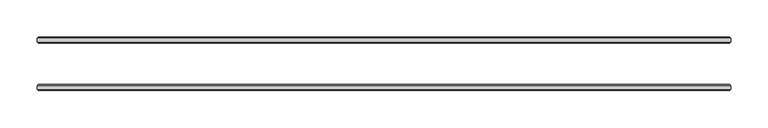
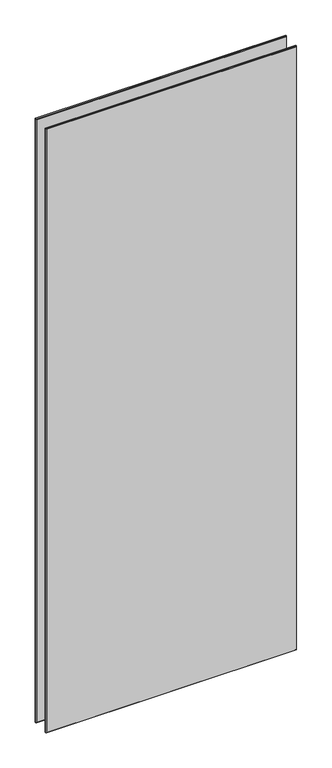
"""IFC4 building model written with IfcOpenShell, lengths in millimetres: plate geometry, 3-AMG-2-Панель двойной витраж 8, 10 : Смещение 32 Толщина 8mm."""

from ifc_helpers import new_model, si_unit, origin, place, context, project, spatial, faceted_brep, source, transform, mapped, element, save


def plate_2100a19b(model_context):
    return source(origin(), model_context, "Body", "Brep", [
        faceted_brep([(465.7317324, -34.4961653, 2362.0376562), (465.7317324, -29.5038347, 2362.0376562), (-465.7317324, -29.5038347, 2362.0376562), (-465.7317324, -34.4961653, 2362.0376562), (465.7317324, -29.5038347, -7.0), (465.7317324, -34.4961653, -7.0), (-465.7317324, -34.4961653, -7.0), (-465.7317324, -29.5038347, -7.0), (-464.2278977, -28.0, 2360.5338215), (464.2278977, -28.0, 2360.5338215), (464.2278977, -28.0, -5.5039422), (-464.2278977, -28.0, -5.5039422), (464.2278977, -36.0, 2360.5338215), (-464.2278977, -36.0, 2360.5338215), (-464.2278977, -36.0, -5.4961653), (464.2278977, -36.0, -5.4961653)], [[[0, 1, 2, 3]], [[4, 5, 6, 7]], [[8, 9, 10, 11]], [[3, 2, 7, 6]], [[12, 13, 14, 15]], [[1, 0, 5, 4]], [[1, 4, 10, 9]], [[5, 0, 12, 15]], [[0, 3, 13, 12]], [[2, 1, 9, 8]], [[7, 2, 8, 11]], [[3, 6, 14, 13]], [[6, 5, 15, 14]], [[4, 7, 11, 10]]]),
        faceted_brep([(465.7317324, 29.5038347, 2362.0376562), (465.7317324, 34.4961653, 2362.0376562), (-465.7317324, 34.4961653, 2362.0376562), (-465.7317324, 29.5038347, 2362.0376562), (465.7317324, 34.4961653, -7.0), (465.7317324, 29.5038347, -7.0), (-465.7317324, 29.5038347, -7.0), (-465.7317324, 34.4961653, -7.0), (-464.2278977, 36.0, 2360.5338215), (464.2278977, 36.0, 2360.5338215), (464.2278977, 36.0, -5.5039422), (-464.2278977, 36.0, -5.5039422), (464.2278977, 28.0, 2360.5338215), (-464.2278977, 28.0, 2360.5338215), (-464.2278977, 28.0, -5.4961653), (464.2278977, 28.0, -5.4961653)], [[[0, 1, 2, 3]], [[4, 5, 6, 7]], [[8, 9, 10, 11]], [[3, 2, 7, 6]], [[12, 13, 14, 15]], [[1, 0, 5, 4]], [[1, 4, 10, 9]], [[5, 0, 12, 15]], [[7, 2, 8, 11]], [[3, 6, 14, 13]], [[0, 3, 13, 12]], [[2, 1, 9, 8]], [[6, 5, 15, 14]], [[4, 7, 11, 10]]]),
    ])


if __name__ == "__main__":
    model = new_model("IFC4")
    model_context = context("Model", 3, world=origin())
    ifc_project = project(units=[si_unit("LENGTHUNIT", "METRE", prefix="MILLI")], contexts=[model_context])
    site = spatial("IfcSite", under=ifc_project)
    building = spatial("IfcBuilding", under=site)
    placement = place(None, origin())
    plate_shape = plate_2100a19b(model_context)
    element("IfcPlate", 1, ObjectType="3-AMG-2-Панель двойной витраж 8, 10 : Смещение 32 Толщина 8mm", at=placement, inside=building, context=model_context, shape_type="MappedRepresentation", body=[
        mapped(plate_shape, transform((0.0, 0.0, 0.0), x_axis=(1.0, 0.0, 0.0), y_axis=(0.0, 1.0, 0.0), z_axis=(0.0, 0.0, 1.0))),
    ])
    save(model, "model.ifc")
